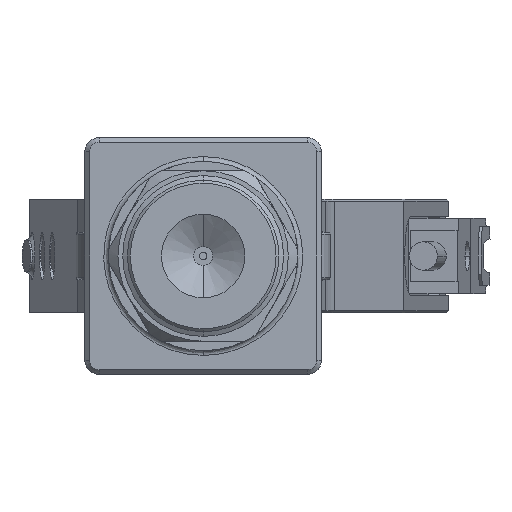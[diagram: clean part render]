
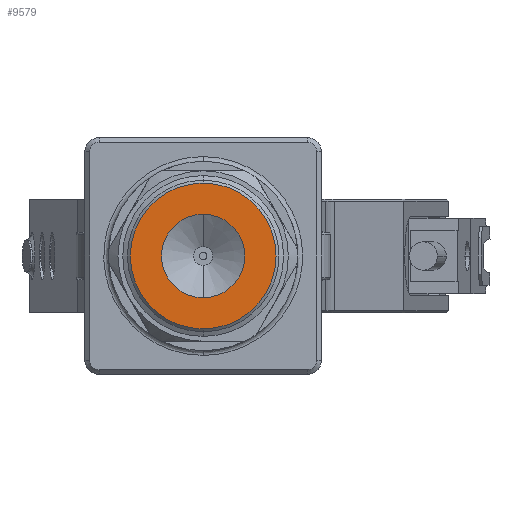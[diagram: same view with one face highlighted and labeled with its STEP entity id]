
A CAD part, front view. The second image highlights one B-rep face of the part: STEP entity #9579.
In plain terms, the highlighted planar face has unit normal (0, -1, 0).
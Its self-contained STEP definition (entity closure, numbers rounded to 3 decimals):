
#33 = CARTESIAN_POINT ( 'NONE',  ( 0., -12., 4.4 ) ) ;
#705 = AXIS2_PLACEMENT_3D ( 'NONE', #12616, #1992, #14402 ) ;
#1908 = CIRCLE ( 'NONE', #17931, 7.7 ) ;
#1992 = DIRECTION ( 'NONE',  ( 0., -1., 0. ) ) ;
#2603 = CIRCLE ( 'NONE', #705, 4.4 ) ;
#3075 = CARTESIAN_POINT ( 'NONE',  ( 0., -12., 0. ) ) ;
#3183 = EDGE_CURVE ( 'NONE', #19619, #5757, #1908, .T. ) ;
#3299 = DIRECTION ( 'NONE',  ( 0., 0., 1. ) ) ;
#3350 = DIRECTION ( 'NONE',  ( 0., 1., 0. ) ) ;
#3464 = CARTESIAN_POINT ( 'NONE',  ( 0., -12., 0. ) ) ;
#3648 = CARTESIAN_POINT ( 'NONE',  ( 0., -12., -7.7 ) ) ;
#4856 = DIRECTION ( 'NONE',  ( 0., 0., 1. ) ) ;
#5426 = DIRECTION ( 'NONE',  ( 0., 0., 1. ) ) ;
#5439 = DIRECTION ( 'NONE',  ( 0., 1., 0. ) ) ;
#5526 = CARTESIAN_POINT ( 'NONE',  ( 0., -12., 0. ) ) ;
#5577 = PLANE ( 'NONE',  #7633 ) ;
#5757 = VERTEX_POINT ( 'NONE', #21393 ) ;
#7633 = AXIS2_PLACEMENT_3D ( 'NONE', #5526, #5439, #5426 ) ;
#8592 = VERTEX_POINT ( 'NONE', #22620 ) ;
#9483 = CARTESIAN_POINT ( 'NONE',  ( 0., -12., 0. ) ) ;
#9579 = ADVANCED_FACE ( 'NONE', ( #16196, #11513 ), #5577, .F. ) ;
#10156 = AXIS2_PLACEMENT_3D ( 'NONE', #9483, #21729, #11235 ) ;
#11122 = EDGE_LOOP ( 'NONE', ( #13291, #21491 ) ) ;
#11235 = DIRECTION ( 'NONE',  ( 0., 0., -1. ) ) ;
#11513 = FACE_BOUND ( 'NONE', #11122, .T. ) ;
#12616 = CARTESIAN_POINT ( 'NONE',  ( 0., -12., 0. ) ) ;
#13291 = ORIENTED_EDGE ( 'NONE', *, *, #16896, .F. ) ;
#14402 = DIRECTION ( 'NONE',  ( 0., 0., -1. ) ) ;
#15431 = AXIS2_PLACEMENT_3D ( 'NONE', #3075, #15440, #4856 ) ;
#15440 = DIRECTION ( 'NONE',  ( 0., 1., 0. ) ) ;
#16196 = FACE_OUTER_BOUND ( 'NONE', #21625, .T. ) ;
#16528 = ORIENTED_EDGE ( 'NONE', *, *, #3183, .F. ) ;
#16896 = EDGE_CURVE ( 'NONE', #8592, #18777, #22412, .T. ) ;
#17931 = AXIS2_PLACEMENT_3D ( 'NONE', #3464, #3350, #3299 ) ;
#18777 = VERTEX_POINT ( 'NONE', #33 ) ;
#18824 = EDGE_CURVE ( 'NONE', #18777, #8592, #2603, .T. ) ;
#19619 = VERTEX_POINT ( 'NONE', #3648 ) ;
#20688 = EDGE_CURVE ( 'NONE', #5757, #19619, #22613, .T. ) ;
#21051 = ORIENTED_EDGE ( 'NONE', *, *, #20688, .F. ) ;
#21393 = CARTESIAN_POINT ( 'NONE',  ( 0., -12., 7.7 ) ) ;
#21491 = ORIENTED_EDGE ( 'NONE', *, *, #18824, .F. ) ;
#21625 = EDGE_LOOP ( 'NONE', ( #21051, #16528 ) ) ;
#21729 = DIRECTION ( 'NONE',  ( 0., -1., 0. ) ) ;
#22412 = CIRCLE ( 'NONE', #10156, 4.4 ) ;
#22613 = CIRCLE ( 'NONE', #15431, 7.7 ) ;
#22620 = CARTESIAN_POINT ( 'NONE',  ( 0., -12., -4.4 ) ) ;
